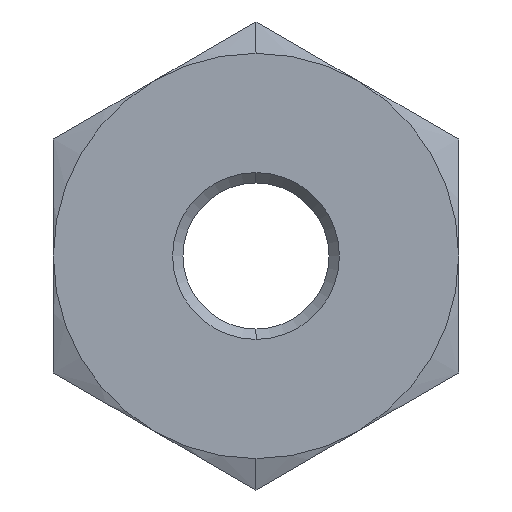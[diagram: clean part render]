
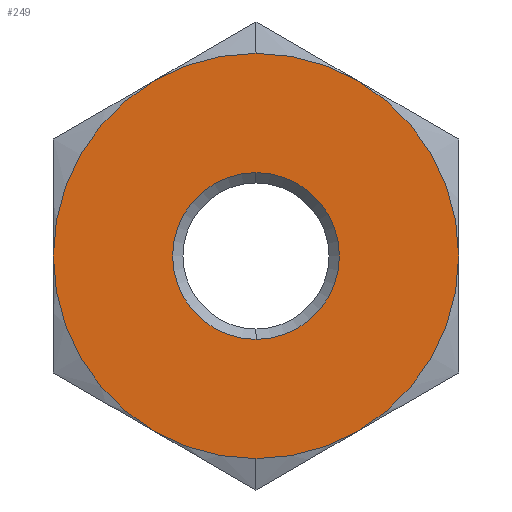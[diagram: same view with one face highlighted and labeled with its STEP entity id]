
A CAD part, left-side view. The second image highlights one B-rep face of the part: STEP entity #249.
In plain terms, the highlighted planar face has unit normal (-1, 0, 0).
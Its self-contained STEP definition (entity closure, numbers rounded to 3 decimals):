
#249=ADVANCED_FACE('',(#507,#508),#509,.F.);
#507=FACE_OUTER_BOUND('',#761,.T.);
#508=FACE_BOUND('',#762,.T.);
#509=PLANE('',#763);
#761=EDGE_LOOP('',(#1365,#1366,#1367,#1368,#1369,#1370,#1371,#1372));
#762=EDGE_LOOP('',(#1373,#1374));
#763=AXIS2_PLACEMENT_3D('',#1375,#1376,#1377);
#1365=ORIENTED_EDGE('',*,*,#1620,.T.);
#1366=ORIENTED_EDGE('',*,*,#1625,.T.);
#1367=ORIENTED_EDGE('',*,*,#1630,.T.);
#1368=ORIENTED_EDGE('',*,*,#1464,.T.);
#1369=ORIENTED_EDGE('',*,*,#1633,.T.);
#1370=ORIENTED_EDGE('',*,*,#1628,.T.);
#1371=ORIENTED_EDGE('',*,*,#1467,.T.);
#1372=ORIENTED_EDGE('',*,*,#1622,.T.);
#1373=ORIENTED_EDGE('',*,*,#1485,.T.);
#1374=ORIENTED_EDGE('',*,*,#1584,.T.);
#1375=CARTESIAN_POINT('',(0.,0.,0.));
#1376=DIRECTION('',(1.0,0.0,0.));
#1377=DIRECTION('',(0.,0.0,-1.0));
#1464=EDGE_CURVE('',#1730,#1732,#1734,.T.);
#1467=EDGE_CURVE('',#1739,#1736,#1740,.T.);
#1485=EDGE_CURVE('',#1769,#1766,#1770,.T.);
#1584=EDGE_CURVE('',#1766,#1769,#1902,.T.);
#1620=EDGE_CURVE('',#1945,#1949,#1951,.T.);
#1622=EDGE_CURVE('',#1736,#1945,#1953,.T.);
#1625=EDGE_CURVE('',#1949,#1955,#1958,.T.);
#1628=EDGE_CURVE('',#1934,#1739,#1961,.T.);
#1630=EDGE_CURVE('',#1955,#1730,#1963,.T.);
#1633=EDGE_CURVE('',#1732,#1934,#1966,.T.);
#1730=VERTEX_POINT('',#2071);
#1732=VERTEX_POINT('',#2074);
#1734=CIRCLE('',#2087,13.5);
#1736=VERTEX_POINT('',#2089);
#1739=VERTEX_POINT('',#2093);
#1740=CIRCLE('',#2094,13.5);
#1766=VERTEX_POINT('',#2155);
#1769=VERTEX_POINT('',#2159);
#1770=CIRCLE('',#2160,5.556);
#1902=CIRCLE('',#2309,5.556);
#1934=VERTEX_POINT('',#2452);
#1945=VERTEX_POINT('',#2499);
#1949=VERTEX_POINT('',#2525);
#1951=CIRCLE('',#2538,13.5);
#1953=CIRCLE('',#2540,13.5);
#1955=VERTEX_POINT('',#2542);
#1958=CIRCLE('',#2556,13.5);
#1961=CIRCLE('',#2570,13.5);
#1963=CIRCLE('',#2572,13.5);
#1966=CIRCLE('',#2586,13.5);
#2071=CARTESIAN_POINT('',(0.,0.,13.5));
#2074=CARTESIAN_POINT('',(0.,6.75,11.691));
#2087=AXIS2_PLACEMENT_3D('',#2715,#2716,#2717);
#2089=CARTESIAN_POINT('',(0.,0.,-13.5));
#2093=CARTESIAN_POINT('',(0.,6.75,-11.691));
#2094=AXIS2_PLACEMENT_3D('',#2719,#2720,#2721);
#2155=CARTESIAN_POINT('',(0.,0.,-5.556));
#2159=CARTESIAN_POINT('',(0.,0.0,5.556));
#2160=AXIS2_PLACEMENT_3D('',#2746,#2747,#2748);
#2309=AXIS2_PLACEMENT_3D('',#2904,#2905,#2906);
#2452=CARTESIAN_POINT('',(0.,13.5,0.));
#2499=CARTESIAN_POINT('',(0.,-6.75,-11.691));
#2525=CARTESIAN_POINT('',(0.0,-13.5,0.0));
#2538=AXIS2_PLACEMENT_3D('',#2923,#2924,#2925);
#2540=AXIS2_PLACEMENT_3D('',#2926,#2927,#2928);
#2542=CARTESIAN_POINT('',(0.,-6.75,11.691));
#2556=AXIS2_PLACEMENT_3D('',#2929,#2930,#2931);
#2570=AXIS2_PLACEMENT_3D('',#2932,#2933,#2934);
#2572=AXIS2_PLACEMENT_3D('',#2935,#2936,#2937);
#2586=AXIS2_PLACEMENT_3D('',#2938,#2939,#2940);
#2715=CARTESIAN_POINT('',(0.0,0.0,0.0));
#2716=DIRECTION('',(-1.0,-0.0,0.));
#2717=DIRECTION('',(0.,0.0,-1.0));
#2719=CARTESIAN_POINT('',(0.0,0.0,0.0));
#2720=DIRECTION('',(-1.0,-0.0,0.));
#2721=DIRECTION('',(0.,0.0,-1.0));
#2746=CARTESIAN_POINT('',(0.0,0.0,0.0));
#2747=DIRECTION('',(1.0,0.0,0.));
#2748=DIRECTION('',(0.,0.0,1.0));
#2904=CARTESIAN_POINT('',(0.0,0.0,0.0));
#2905=DIRECTION('',(1.0,0.0,0.));
#2906=DIRECTION('',(0.,0.0,1.0));
#2923=CARTESIAN_POINT('',(0.0,0.0,0.0));
#2924=DIRECTION('',(-1.0,-0.0,0.));
#2925=DIRECTION('',(0.,0.0,-1.0));
#2926=CARTESIAN_POINT('',(0.0,0.0,0.0));
#2927=DIRECTION('',(-1.0,-0.0,0.));
#2928=DIRECTION('',(0.,0.0,-1.0));
#2929=CARTESIAN_POINT('',(0.0,0.0,0.0));
#2930=DIRECTION('',(-1.0,-0.0,0.));
#2931=DIRECTION('',(0.,0.0,-1.0));
#2932=CARTESIAN_POINT('',(0.0,0.0,0.0));
#2933=DIRECTION('',(-1.0,-0.0,0.));
#2934=DIRECTION('',(0.,0.0,-1.0));
#2935=CARTESIAN_POINT('',(0.0,0.0,0.0));
#2936=DIRECTION('',(-1.0,-0.0,0.));
#2937=DIRECTION('',(0.,0.0,-1.0));
#2938=CARTESIAN_POINT('',(0.0,0.0,0.0));
#2939=DIRECTION('',(-1.0,-0.0,0.));
#2940=DIRECTION('',(0.,0.0,-1.0));
